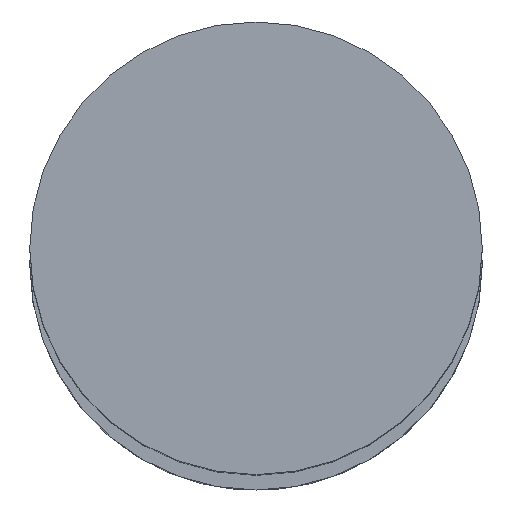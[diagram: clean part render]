
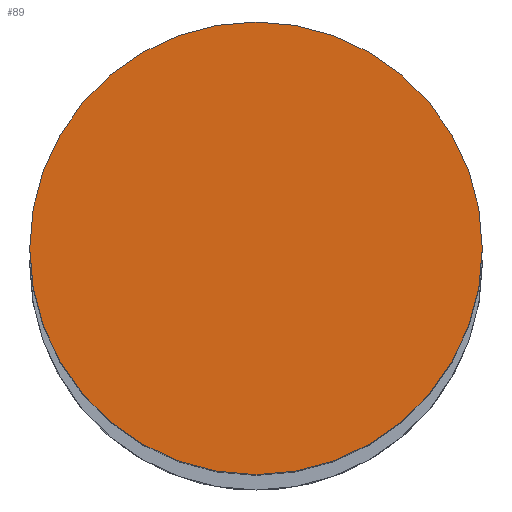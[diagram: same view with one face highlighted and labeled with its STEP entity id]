
A CAD part, top view. The second image highlights one B-rep face of the part: STEP entity #89.
In plain terms, the highlighted planar face has unit normal (0, 0, 1).
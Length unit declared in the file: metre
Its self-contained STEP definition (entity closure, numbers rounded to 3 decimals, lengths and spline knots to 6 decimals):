
#89=ADVANCED_FACE('0:129',(#177),#178,.T.);
#177=FACE_OUTER_BOUND('',#269,.T.);
#178=PLANE('',#270);
#269=EDGE_LOOP('',(#430,#431));
#270=AXIS2_PLACEMENT_3D('',#432,#433,#434);
#430=ORIENTED_EDGE('',*,*,#503,.F.);
#431=ORIENTED_EDGE('',*,*,#549,.F.);
#432=CARTESIAN_POINT('',(0.,0.,0.239));
#433=DIRECTION('',(0.0,0.0,1.0));
#434=DIRECTION('',(1.0,0.0,0.0));
#503=EDGE_CURVE('13:581',#587,#583,#589,.F.);
#549=EDGE_CURVE('',#583,#587,#656,.F.);
#583=VERTEX_POINT('',#707);
#587=VERTEX_POINT('',#712);
#589=CIRCLE('',#715,0.008);
#656=CIRCLE('',#796,0.008);
#707=CARTESIAN_POINT('',(0.00789,0.000133,0.239));
#712=CARTESIAN_POINT('',(-0.00811,0.000133,0.239));
#715=AXIS2_PLACEMENT_3D('',#856,#857,#858);
#796=AXIS2_PLACEMENT_3D('',#924,#925,#926);
#856=CARTESIAN_POINT('',(-0.00011,0.000133,0.239));
#857=DIRECTION('',(0.0,0.0,1.0));
#858=DIRECTION('',(1.0,0.0,0.0));
#924=CARTESIAN_POINT('',(-0.00011,0.000133,0.239));
#925=DIRECTION('',(0.0,0.0,1.0));
#926=DIRECTION('',(1.0,0.0,0.0));
